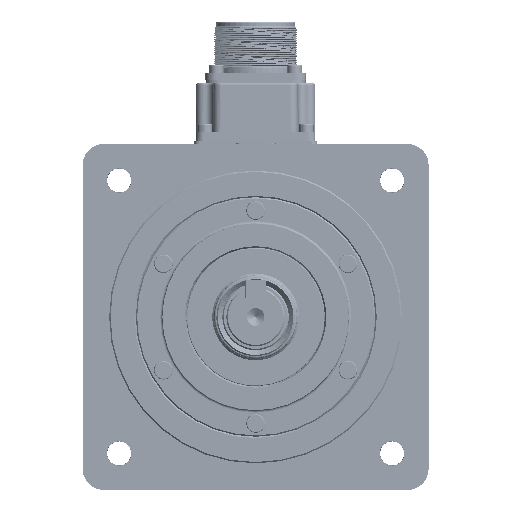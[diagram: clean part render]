
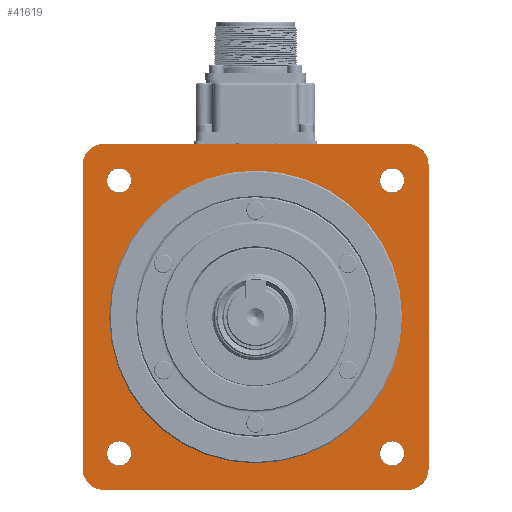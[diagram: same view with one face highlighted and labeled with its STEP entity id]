
A CAD part, front view. The second image highlights one B-rep face of the part: STEP entity #41619.
In plain terms, the highlighted planar face has unit normal (0, -1, 0).
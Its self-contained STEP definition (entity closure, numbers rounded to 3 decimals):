
#1069=LINE('',#59596,#4248);
#1140=LINE('',#62484,#4319);
#1145=LINE('',#62494,#4324);
#1150=LINE('',#62504,#4329);
#4248=VECTOR('',#48183,1000.);
#4319=VECTOR('',#48872,1000.);
#4324=VECTOR('',#48883,1000.);
#4329=VECTOR('',#48894,1000.);
#9007=PLANE('',#44578);
#10953=ORIENTED_EDGE('',*,*,#22042,.F.);
#10954=ORIENTED_EDGE('',*,*,#22008,.F.);
#10955=ORIENTED_EDGE('',*,*,#22005,.T.);
#10956=ORIENTED_EDGE('',*,*,#22014,.F.);
#10957=ORIENTED_EDGE('',*,*,#22011,.T.);
#10958=ORIENTED_EDGE('',*,*,#22020,.F.);
#10959=ORIENTED_EDGE('',*,*,#22017,.T.);
#10960=ORIENTED_EDGE('',*,*,#22021,.F.);
#10961=ORIENTED_EDGE('',*,*,#21657,.T.);
#10962=ORIENTED_EDGE('',*,*,#21964,.F.);
#10963=ORIENTED_EDGE('',*,*,#21975,.F.);
#10964=ORIENTED_EDGE('',*,*,#21985,.F.);
#10965=ORIENTED_EDGE('',*,*,#21955,.F.);
#21657=EDGE_CURVE('',#27365,#27364,#1069,.T.);
#21955=EDGE_CURVE('',#27568,#27568,#31534,.F.);
#21964=EDGE_CURVE('',#27576,#27576,#31540,.F.);
#21975=EDGE_CURVE('',#27586,#27586,#31548,.F.);
#21985=EDGE_CURVE('',#27596,#27596,#31554,.F.);
#22005=EDGE_CURVE('',#27607,#27606,#1140,.T.);
#22008=EDGE_CURVE('',#27607,#27364,#31560,.F.);
#22011=EDGE_CURVE('',#27609,#27608,#1145,.T.);
#22014=EDGE_CURVE('',#27609,#27606,#31561,.F.);
#22017=EDGE_CURVE('',#27611,#27610,#1150,.T.);
#22020=EDGE_CURVE('',#27611,#27608,#31562,.F.);
#22021=EDGE_CURVE('',#27365,#27610,#31563,.F.);
#22042=EDGE_CURVE('',#27624,#27624,#31576,.T.);
#27364=VERTEX_POINT('',#59595);
#27365=VERTEX_POINT('',#59597);
#27568=VERTEX_POINT('',#62380);
#27576=VERTEX_POINT('',#62399);
#27586=VERTEX_POINT('',#62424);
#27596=VERTEX_POINT('',#62446);
#27606=VERTEX_POINT('',#62483);
#27607=VERTEX_POINT('',#62485);
#27608=VERTEX_POINT('',#62493);
#27609=VERTEX_POINT('',#62495);
#27610=VERTEX_POINT('',#62503);
#27611=VERTEX_POINT('',#62505);
#27624=VERTEX_POINT('',#62563);
#31534=CIRCLE('',#44495,4.6);
#31540=CIRCLE('',#44503,4.6);
#31548=CIRCLE('',#44515,4.6);
#31554=CIRCLE('',#44523,4.6);
#31560=CIRCLE('',#44538,8.);
#31561=CIRCLE('',#44541,8.);
#31562=CIRCLE('',#44544,8.);
#31563=CIRCLE('',#44546,8.);
#31576=CIRCLE('',#44577,55.);
#33028=EDGE_LOOP('',(#10953));
#33029=EDGE_LOOP('',(#10954,#10955,#10956,#10957,#10958,#10959,#10960,#10961));
#33030=EDGE_LOOP('',(#10962));
#33031=EDGE_LOOP('',(#10963));
#33032=EDGE_LOOP('',(#10964));
#33033=EDGE_LOOP('',(#10965));
#36530=FACE_BOUND('',#33028,.T.);
#36531=FACE_BOUND('',#33029,.T.);
#36532=FACE_BOUND('',#33030,.T.);
#36533=FACE_BOUND('',#33031,.T.);
#36534=FACE_BOUND('',#33032,.T.);
#36535=FACE_BOUND('',#33033,.T.);
#41619=ADVANCED_FACE('',(#36530,#36531,#36532,#36533,#36534,#36535),#9007,
 .F.);
#44495=AXIS2_PLACEMENT_3D('',#62379,#48764,#48765);
#44503=AXIS2_PLACEMENT_3D('',#62398,#48783,#48784);
#44515=AXIS2_PLACEMENT_3D('',#62423,#48810,#48811);
#44523=AXIS2_PLACEMENT_3D('',#62445,#48830,#48831);
#44538=AXIS2_PLACEMENT_3D('',#62489,#48877,#48878);
#44541=AXIS2_PLACEMENT_3D('',#62499,#48888,#48889);
#44544=AXIS2_PLACEMENT_3D('',#62509,#48899,#48900);
#44546=AXIS2_PLACEMENT_3D('',#62511,#48903,#48904);
#44577=AXIS2_PLACEMENT_3D('',#62562,#48973,#48974);
#44578=AXIS2_PLACEMENT_3D('',#62564,#48975,#48976);
#48183=DIRECTION('',(-1.,0.,0.));
#48764=DIRECTION('',(0.,1.,0.));
#48765=DIRECTION('',(0.,0.,1.));
#48783=DIRECTION('',(0.,1.,0.));
#48784=DIRECTION('',(0.,0.,1.));
#48810=DIRECTION('',(0.,1.,0.));
#48811=DIRECTION('',(0.,0.,1.));
#48830=DIRECTION('',(0.,1.,0.));
#48831=DIRECTION('',(0.,0.,1.));
#48872=DIRECTION('',(0.,0.,-1.));
#48877=DIRECTION('',(0.,-1.,0.));
#48878=DIRECTION('',(0.,0.,-1.));
#48883=DIRECTION('',(1.,0.,0.));
#48888=DIRECTION('',(0.,-1.,0.));
#48889=DIRECTION('',(0.,0.,-1.));
#48894=DIRECTION('',(0.,0.,1.));
#48899=DIRECTION('',(0.,-1.,0.));
#48900=DIRECTION('',(0.,0.,-1.));
#48903=DIRECTION('',(0.,-1.,0.));
#48904=DIRECTION('',(0.,0.,-1.));
#48973=DIRECTION('',(0.,-1.,0.));
#48974=DIRECTION('',(0.,0.,-1.));
#48975=DIRECTION('',(0.,1.,0.));
#48976=DIRECTION('',(0.,0.,1.));
#59595=CARTESIAN_POINT('',(-57.,1.2,65.));
#59596=CARTESIAN_POINT('',(65.,1.2,65.));
#59597=CARTESIAN_POINT('',(57.,1.2,65.));
#62379=CARTESIAN_POINT('',(51.265,1.2,51.265));
#62380=CARTESIAN_POINT('',(51.265,1.2,55.866));
#62398=CARTESIAN_POINT('',(-51.265,1.2,51.265));
#62399=CARTESIAN_POINT('',(-51.265,1.2,55.866));
#62423=CARTESIAN_POINT('',(-51.265,1.2,-51.265));
#62424=CARTESIAN_POINT('',(-51.265,1.2,-46.665));
#62445=CARTESIAN_POINT('',(51.265,1.2,-51.265));
#62446=CARTESIAN_POINT('',(51.265,1.2,-46.665));
#62483=CARTESIAN_POINT('',(-65.,1.2,-57.));
#62484=CARTESIAN_POINT('',(-65.,1.2,65.));
#62485=CARTESIAN_POINT('',(-65.,1.2,57.));
#62489=CARTESIAN_POINT('',(-57.,1.2,57.));
#62493=CARTESIAN_POINT('',(57.,1.2,-65.));
#62494=CARTESIAN_POINT('',(-65.,1.2,-65.));
#62495=CARTESIAN_POINT('',(-57.,1.2,-65.));
#62499=CARTESIAN_POINT('',(-57.,1.2,-57.));
#62503=CARTESIAN_POINT('',(65.,1.2,57.));
#62504=CARTESIAN_POINT('',(65.,1.2,-65.));
#62505=CARTESIAN_POINT('',(65.,1.2,-57.));
#62509=CARTESIAN_POINT('',(57.,1.2,-57.));
#62511=CARTESIAN_POINT('',(57.,1.2,57.));
#62562=CARTESIAN_POINT('',(0.,1.2,0.));
#62563=CARTESIAN_POINT('',(0.,1.2,-55.));
#62564=CARTESIAN_POINT('',(0.,1.2,55.));
